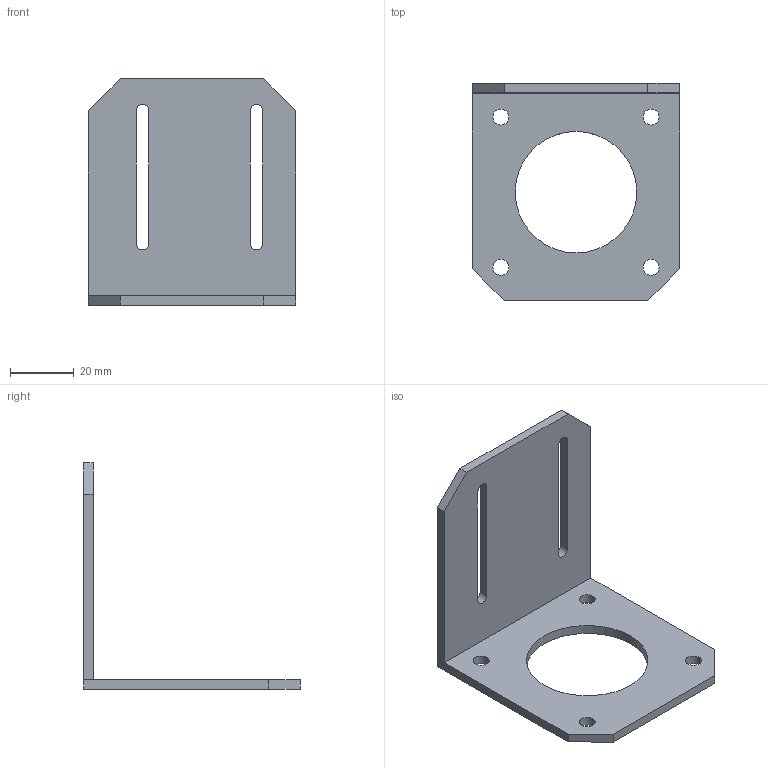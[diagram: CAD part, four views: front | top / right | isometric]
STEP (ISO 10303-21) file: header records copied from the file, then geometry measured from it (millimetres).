
FILE_DESCRIPTION (( 'STEP AP214' ), '1' );
FILE_NAME ('57萇儂盓殤.STEP', '2025-04-08T02:09:49', ( '' ), ( '' ), 'SwSTEP 2.0', 'SolidWorks 2021', '' );
FILE_SCHEMA (( 'AUTOMOTIVE_DESIGN' ));
Length unit declared in the file: millimetre
Products named in the file (3): 57萇儂盓殤1; 57萇儂盓殤2; 57萇儂盓殤
Assembly tree (2 placements, depth 2):
  57萇儂盓殤
    57萇儂盓殤1
    57萇儂盓殤2
Bounding box: 65 x 68 x 71 mm (x, y, z)
Volume: 21199.9 mm3; surface area: 16781.5 mm2
Topology: 2 solids, 2 shells, 34 faces, 90 edges, 60 vertices
Faces by surface type: plane 20, cylinder 14
Entity records: 1200 total; most frequent: DIRECTION 196, CARTESIAN_POINT 189, ORIENTED_EDGE 180, EDGE_CURVE 90, AXIS2_PLACEMENT_3D 67, LINE 62, VECTOR 62, VERTEX_POINT 60
